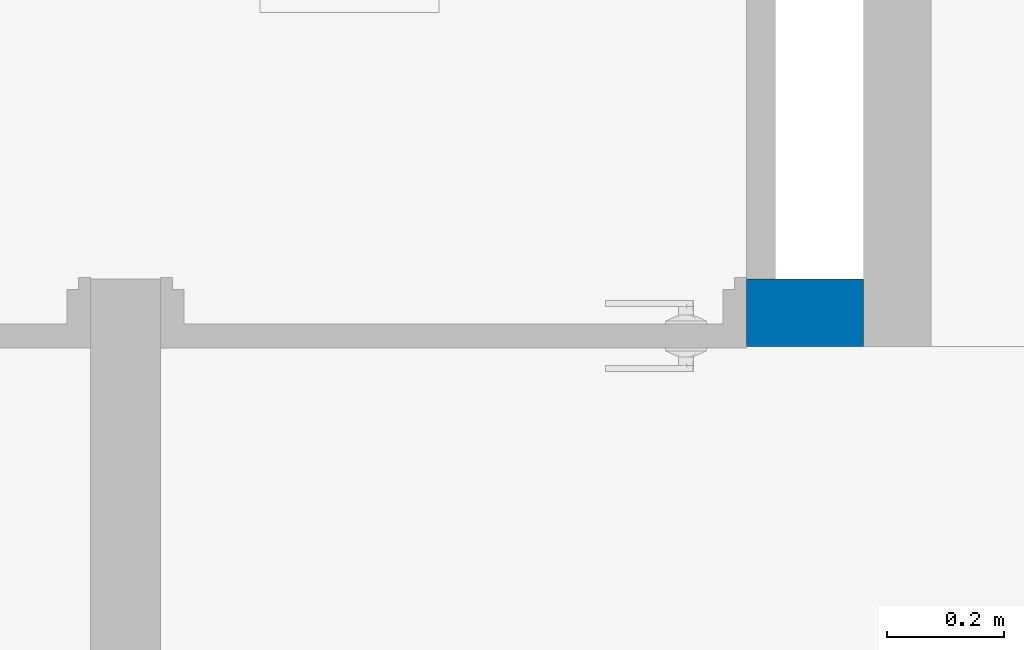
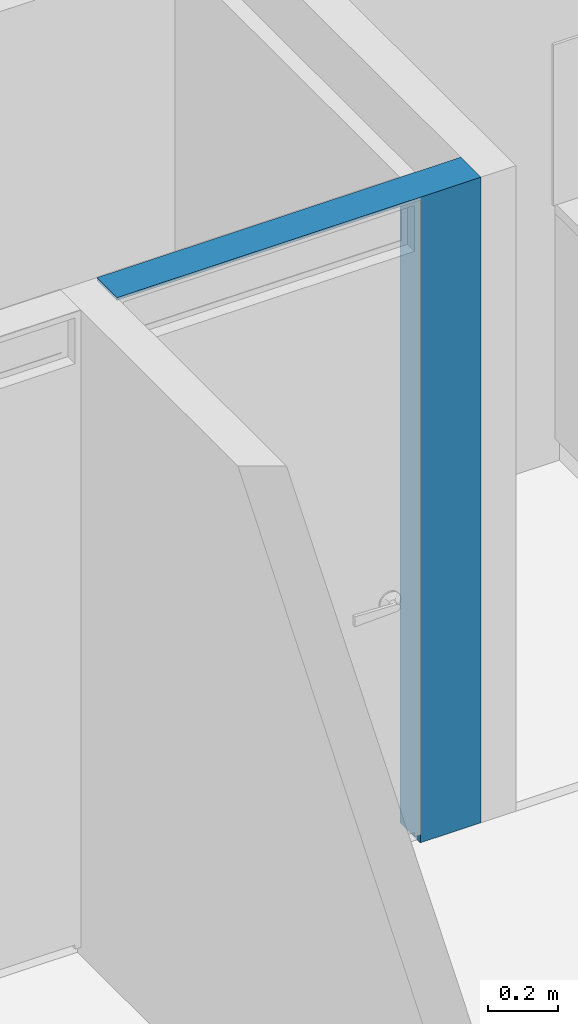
# One storey, part 30 of 48: 1 wall, 1 opening.
"""IFC4 building model written with IfcOpenShell, lengths in metres."""

from ifc_helpers import new_model, entity, si_unit, converted_unit, derived_unit, direction, frame, origin, place, context, subcontext, project, spatial, indexed_curve, outline, extrude, polygons, material, type_object, element, save


model = new_model("IFC4")

# Units and contexts
model_context = context("Model", 3, precision=1e-05, world=origin(), true_north=direction((6.123031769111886e-17, 1.0)))
body_context = subcontext(model_context, "Body", "Model", "MODEL_VIEW")
ifc_project = project(units=[si_unit("LENGTHUNIT", "METRE"), si_unit("AREAUNIT", "SQUARE_METRE"), si_unit("VOLUMEUNIT", "CUBIC_METRE"), converted_unit("PLANEANGLEUNIT", "DEGREE", entity("IfcRatioMeasure", 0.017453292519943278), si_unit("PLANEANGLEUNIT", "RADIAN"), dimensions=[0, 0, 0, 0, 0, 0, 0]), si_unit("MASSUNIT", "GRAM", prefix="KILO"), derived_unit("MASSDENSITYUNIT", [(si_unit("MASSUNIT", "GRAM", prefix="KILO"), 1), (si_unit("LENGTHUNIT", "METRE"), -3)]), derived_unit("IONCONCENTRATIONUNIT", [(si_unit("MASSUNIT", "GRAM", prefix="KILO"), 1), (si_unit("LENGTHUNIT", "METRE"), -3)]), derived_unit("MOMENTOFINERTIAUNIT", [(si_unit("LENGTHUNIT", "METRE"), 4)]), si_unit("TIMEUNIT", "SECOND"), si_unit("FREQUENCYUNIT", "HERTZ"), si_unit("THERMODYNAMICTEMPERATUREUNIT", "DEGREE_CELSIUS"), derived_unit("THERMALTRANSMITTANCEUNIT", [(si_unit("MASSUNIT", "GRAM", prefix="KILO"), 1), (si_unit("THERMODYNAMICTEMPERATUREUNIT", "KELVIN"), -1), (si_unit("TIMEUNIT", "SECOND"), -3)]), derived_unit("THERMALCONDUCTANCEUNIT", [(si_unit("MASSUNIT", "GRAM", prefix="KILO"), 1), (si_unit("THERMODYNAMICTEMPERATUREUNIT", "KELVIN"), -1), (si_unit("TIMEUNIT", "SECOND"), -3), (si_unit("LENGTHUNIT", "METRE"), 1)]), derived_unit("VOLUMETRICFLOWRATEUNIT", [(si_unit("LENGTHUNIT", "METRE"), 3), (si_unit("TIMEUNIT", "SECOND"), -1)]), derived_unit("MASSFLOWRATEUNIT", [(si_unit("MASSUNIT", "GRAM", prefix="KILO"), 1), (si_unit("TIMEUNIT", "SECOND"), -1)]), derived_unit("ROTATIONALFREQUENCYUNIT", [(si_unit("TIMEUNIT", "SECOND"), -1)]), si_unit("ELECTRICCURRENTUNIT", "AMPERE"), si_unit("ELECTRICVOLTAGEUNIT", "VOLT"), si_unit("POWERUNIT", "WATT"), si_unit("FORCEUNIT", "NEWTON", prefix="KILO"), si_unit("ILLUMINANCEUNIT", "LUX"), si_unit("LUMINOUSFLUXUNIT", "LUMEN"), si_unit("LUMINOUSINTENSITYUNIT", "CANDELA"), derived_unit("USERDEFINED", [(si_unit("MASSUNIT", "GRAM", prefix="KILO"), -1), (si_unit("LENGTHUNIT", "METRE"), -2), (si_unit("TIMEUNIT", "SECOND"), 3), (si_unit("LUMINOUSFLUXUNIT", "LUMEN"), 1)]), derived_unit("USERDEFINED", [(si_unit("MASSUNIT", "GRAM", prefix="KILO"), 1), (si_unit("TIMEUNIT", "SECOND"), -3), (si_unit("LENGTHUNIT", "METRE"), 3), (si_unit("ELECTRICCURRENTUNIT", "AMPERE"), -2)]), derived_unit("SOUNDPOWERUNIT", [(si_unit("MASSUNIT", "GRAM", prefix="KILO"), 1), (si_unit("TIMEUNIT", "SECOND"), -3), (si_unit("LENGTHUNIT", "METRE"), 2)]), derived_unit("SOUNDPRESSUREUNIT", [(si_unit("MASSUNIT", "GRAM", prefix="KILO"), 1), (si_unit("LENGTHUNIT", "METRE"), -1), (si_unit("TIMEUNIT", "SECOND"), -2)]), derived_unit("LINEARVELOCITYUNIT", [(si_unit("LENGTHUNIT", "METRE"), 1), (si_unit("TIMEUNIT", "SECOND"), -1)]), si_unit("PRESSUREUNIT", "PASCAL"), derived_unit("USERDEFINED", [(si_unit("MASSUNIT", "GRAM", prefix="KILO"), 1), (si_unit("LENGTHUNIT", "METRE"), -2), (si_unit("TIMEUNIT", "SECOND"), -2)]), derived_unit("LINEARFORCEUNIT", [(si_unit("MASSUNIT", "GRAM", prefix="KILO"), 1), (si_unit("TIMEUNIT", "SECOND"), -2)]), derived_unit("PLANARFORCEUNIT", [(si_unit("MASSUNIT", "GRAM", prefix="KILO"), 1), (si_unit("LENGTHUNIT", "METRE"), -1), (si_unit("TIMEUNIT", "SECOND"), -2)]), derived_unit("SPECIFICHEATCAPACITYUNIT", [(si_unit("THERMODYNAMICTEMPERATUREUNIT", "KELVIN"), -1), (si_unit("LENGTHUNIT", "METRE"), 2), (si_unit("TIMEUNIT", "SECOND"), -2)]), derived_unit("HEATINGVALUEUNIT", [(si_unit("LENGTHUNIT", "METRE"), 2), (si_unit("TIMEUNIT", "SECOND"), -2)]), derived_unit("VAPORPERMEABILITYUNIT", [(si_unit("LENGTHUNIT", "METRE"), -1), (si_unit("TIMEUNIT", "SECOND"), 1)]), derived_unit("DYNAMICVISCOSITYUNIT", [(si_unit("MASSUNIT", "GRAM", prefix="KILO"), 1), (si_unit("TIMEUNIT", "SECOND"), -1), (si_unit("LENGTHUNIT", "METRE"), -1)]), derived_unit("THERMALEXPANSIONCOEFFICIENTUNIT", [(si_unit("THERMODYNAMICTEMPERATUREUNIT", "KELVIN"), -1)]), derived_unit("MODULUSOFELASTICITYUNIT", [(si_unit("MASSUNIT", "GRAM", prefix="KILO"), 1), (si_unit("LENGTHUNIT", "METRE"), -1), (si_unit("TIMEUNIT", "SECOND"), -2)]), derived_unit("ISOTHERMALMOISTURECAPACITYUNIT", [(si_unit("LENGTHUNIT", "METRE"), 3), (si_unit("MASSUNIT", "GRAM", prefix="KILO"), -1)]), derived_unit("MOISTUREDIFFUSIVITYUNIT", [(si_unit("TIMEUNIT", "SECOND"), -1), (si_unit("LENGTHUNIT", "METRE"), 2)])], contexts=[model_context])

# Site, building, storey
site_placement = place(None, origin())
site = spatial("IfcSite", under=ifc_project, at=site_placement, Name="Default", CompositionType="ELEMENT")
building_placement = place(site_placement, origin())
building = spatial("IfcBuilding", under=site, at=building_placement, CompositionType="ELEMENT")
storey_placement = place(building_placement, frame((0.0, 0.0, 9.40000000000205)))
storey = spatial("IfcBuildingStorey", under=building, at=storey_placement, Name="Nivel 5", CompositionType="ELEMENT", Elevation=9.40000000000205)

# Wall, opening
ifc_material = material(Name="LADRILLO CLARO", Category="Materials")
wall_type = type_object("IfcWallType", Name="Basic Wall:B2010 - 0.115m - MI mampostería no estructural - Ladrillo", PredefinedType="STANDARD")
wall_placement = place(storey_placement, frame((10.582499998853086, -9.082499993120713, 0.0), z_axis=(0.0, 0.0, 1.0), x_axis=(-1.0, 0.0, 0.0)))
wall = element("IfcWall", 1, at=wall_placement, inside=storey, type_object=wall_type, material=ifc_material, Name="Basic Wall:B2010 - 0.115m - MI mampostería no estructural - Ladrillo", ObjectType="Basic Wall:B2010 - 0.115m - MI mampostería no estructural - Ladrillo", PredefinedType="NOTDEFINED", context=body_context, shape_type="Tessellation", body=[
    polygons([(1.1999999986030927, -0.05750000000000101, 2.2499999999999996), (0.1999999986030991, -0.05750000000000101, 2.2499999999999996), (0.14999999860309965, -0.05750000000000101, 2.2499999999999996), (2.0321788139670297e-15, -0.057499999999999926, 2.2499999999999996), (2.0321788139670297e-15, -0.057499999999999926, -1.0828671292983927e-15), (0.14999999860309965, -0.05750000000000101, -1.0828671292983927e-15), (0.19999999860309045, -0.057499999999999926, -1.0828671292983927e-15), (0.19999999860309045, -0.057499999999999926, 2.2399999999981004), (1.1999999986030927, -0.05750000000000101, 2.2399999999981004), (1.0513971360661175e-15, 0.057499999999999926, 2.2499999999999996), (1.1999999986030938, 0.057499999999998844, 2.2499999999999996), (1.199999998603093, 0.057499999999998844, 2.2399999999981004), (0.19999999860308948, 0.057499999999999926, 2.2399999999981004), (0.19999999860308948, 0.057499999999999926, -1.0828671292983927e-15), (1.0513971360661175e-15, 0.057499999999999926, -1.0828671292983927e-15)], [[[1, 2, 3, 4, 5, 6, 7, 8, 9]], [[10, 11, 12, 13, 14, 15]], [[5, 15, 14, 7, 6]], [[11, 1, 9, 12]], [[4, 3, 2, 1, 11, 10]], [[5, 4, 10, 15]], [[13, 8, 7, 14]], [[8, 13, 12, 9]]], closed=True),
])
opening_placement = place(wall_placement, frame((0.19999999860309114, -0.0574999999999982, 0.0)))
element("IfcOpeningElement", 2, at=opening_placement, cuts=wall, Name="C1030 - Puerta batiente - Madera + Metal:C1030 - 1.00 x 2.24 - Puerta batiente - Madera:1", PredefinedType="OPENING", context=body_context, shape_type="SweptSolid", body=[
    extrude(outline(indexed_curve([(0.0, 5.4068439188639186e-30), (2.2399999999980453, 5.4068439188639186e-30), (2.2399999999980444, 0.9999999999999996), (0.0, 0.9999999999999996), (0.0, 5.4068439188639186e-30)], self_intersect=False)), frame((0.0, 0.0, 0.0), z_axis=(0.0, 1.0, 0.0), x_axis=(0.0, 0.0, 1.0)), (0.0, 0.0, 1.0), 0.115),
])

save(model, "model.ifc")
